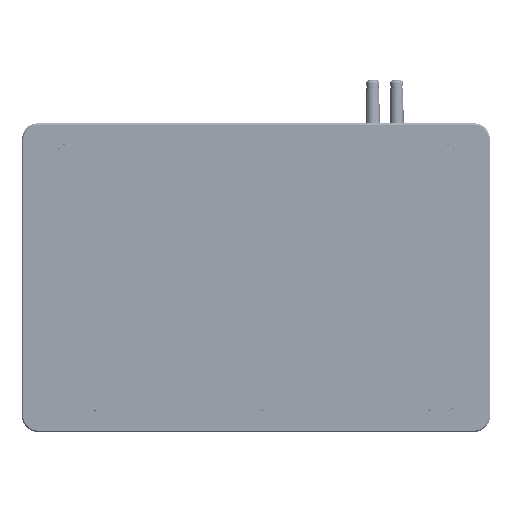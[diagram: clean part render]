
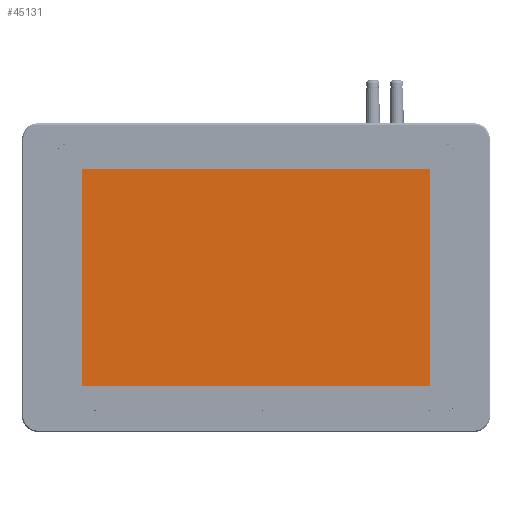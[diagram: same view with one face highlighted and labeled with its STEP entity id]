
A CAD part, top view. The second image highlights one B-rep face of the part: STEP entity #45131.
In plain terms, the highlighted planar face has unit normal (0, 0, 1).
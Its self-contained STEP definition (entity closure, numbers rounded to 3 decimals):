
#34005=FACE_OUTER_BOUND('',#69451,.T.);
#45131=ADVANCED_FACE('',(#34005),#54755,.T.);
#54755=PLANE('',#193797);
#60945=LINE('',#271453,#63419);
#60949=LINE('',#271462,#63423);
#60952=LINE('',#271468,#63426);
#60955=LINE('',#271474,#63429);
#63419=VECTOR('',#211444,1.);
#63423=VECTOR('',#211450,1.);
#63426=VECTOR('',#211455,1.);
#63429=VECTOR('',#211460,1.);
#69451=EDGE_LOOP('',(#89780,#89781,#89782,#89783));
#89780=ORIENTED_EDGE('',*,*,#163933,.T.);
#89781=ORIENTED_EDGE('',*,*,#163943,.T.);
#89782=ORIENTED_EDGE('',*,*,#163940,.T.);
#89783=ORIENTED_EDGE('',*,*,#163937,.T.);
#142464=VERTEX_POINT('',#271454);
#142465=VERTEX_POINT('',#271455);
#142468=VERTEX_POINT('',#271463);
#142470=VERTEX_POINT('',#271469);
#163933=EDGE_CURVE('',#142464,#142465,#60945,.T.);
#163937=EDGE_CURVE('',#142468,#142464,#60949,.T.);
#163940=EDGE_CURVE('',#142470,#142468,#60952,.T.);
#163943=EDGE_CURVE('',#142465,#142470,#60955,.T.);
#193797=AXIS2_PLACEMENT_3D('',#271478,#211466,#211467);
#211444=DIRECTION('',(0.,-1.,0.));
#211450=DIRECTION('',(-1.,0.,0.));
#211455=DIRECTION('',(0.,1.,0.));
#211460=DIRECTION('',(1.,0.,0.));
#211466=DIRECTION('',(0.,0.,1.));
#211467=DIRECTION('',(1.,0.,0.));
#271453=CARTESIAN_POINT('',(-125.944,83.898,330.25));
#271454=CARTESIAN_POINT('',(-125.944,83.898,330.25));
#271455=CARTESIAN_POINT('',(-125.944,-52.702,330.25));
#271462=CARTESIAN_POINT('',(-125.944,83.898,330.25));
#271463=CARTESIAN_POINT('',(92.056,83.898,330.25));
#271468=CARTESIAN_POINT('',(92.056,83.898,330.25));
#271469=CARTESIAN_POINT('',(92.056,-52.702,330.25));
#271474=CARTESIAN_POINT('',(-125.944,-52.702,330.25));
#271478=CARTESIAN_POINT('',(-884.291,-396.91,330.25));
